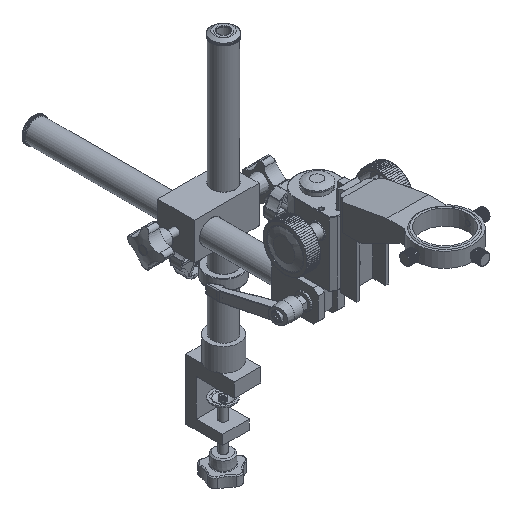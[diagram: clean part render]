
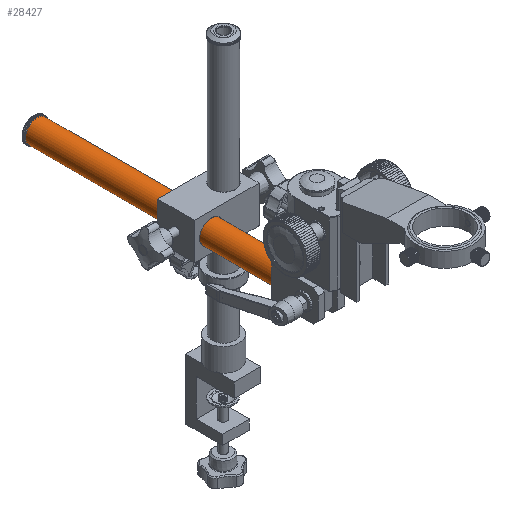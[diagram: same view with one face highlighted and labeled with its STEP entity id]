
A CAD part, isometric view. The second image highlights one B-rep face of the part: STEP entity #28427.
In plain terms, the highlighted cylindrical face has radius 12.5 mm (diameter 25 mm), a full revolution.
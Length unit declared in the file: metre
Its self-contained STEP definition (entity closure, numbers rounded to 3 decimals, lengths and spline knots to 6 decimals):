
#28427=ADVANCED_FACE('0:25961',(#57253,#57254),#57255,.T.);
#28877=EDGE_CURVE('0:26773',#57965,#57965,#57966,.T.);
#28879=EDGE_CURVE('0:26776',#57968,#57968,#57969,.T.);
#57253=FACE_OUTER_BOUND('',#151243,.T.);
#57254=FACE_OUTER_BOUND('',#151244,.T.);
#57255=CYLINDRICAL_SURFACE('',#151245,0.0125);
#57965=VERTEX_POINT('',#152425);
#57966=CIRCLE('',#152426,0.0125);
#57968=VERTEX_POINT('',#152429);
#57969=CIRCLE('',#152430,0.0125);
#151243=EDGE_LOOP('',(#192873));
#151244=EDGE_LOOP('',(#192874));
#151245=AXIS2_PLACEMENT_3D('',#192875,#192876,#192877);
#152425=CARTESIAN_POINT('',(-0.0455,0.259017,-0.002635));
#152426=AXIS2_PLACEMENT_3D('',#194161,#194162,#194163);
#152429=CARTESIAN_POINT('',(-0.0455,-0.010983,-0.002635));
#152430=AXIS2_PLACEMENT_3D('',#194164,#194165,#194166);
#192873=ORIENTED_EDGE('',*,*,#28877,.F.);
#192874=ORIENTED_EDGE('',*,*,#28879,.F.);
#192875=CARTESIAN_POINT('',(-0.033,-0.010983,-0.002635));
#192876=DIRECTION('',(0.,1.0,0.));
#192877=DIRECTION('',(-1.0,0.,0.));
#194161=CARTESIAN_POINT('',(-0.033,0.259017,-0.002635));
#194162=DIRECTION('',(0.,1.0,0.));
#194163=DIRECTION('',(-1.0,0.,0.));
#194164=CARTESIAN_POINT('',(-0.033,-0.010983,-0.002635));
#194165=DIRECTION('',(0.,-1.0,0.));
#194166=DIRECTION('',(-1.0,0.,0.));
